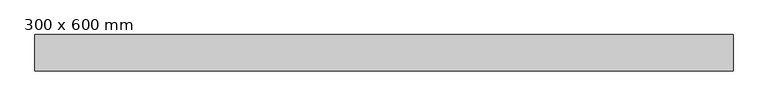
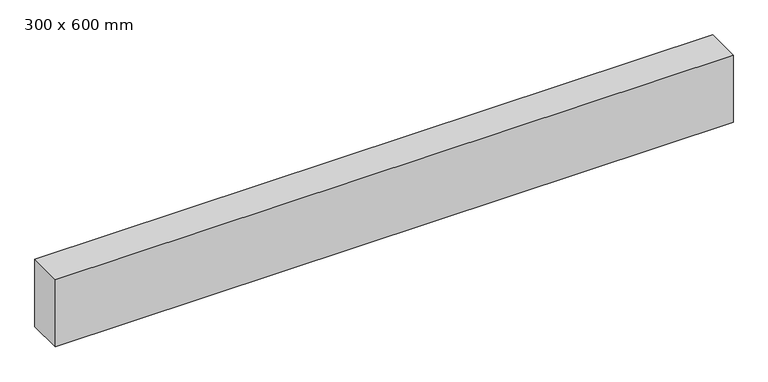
"""IFC4 building model written with IfcOpenShell, lengths in millimetres: beam geometry, Poutre rectangulaire - Béton : 300 x 600 mm."""

import ifcopenshell
import ifcopenshell.guid

model = None  # the IFC model being written
_history = None  # IfcOwnerHistory: only IFC2X3 demands one
_inside = {}  # id of a spatial element -> (the spatial element, [elements in it])
_under = {}  # id of a project, library or spatial element -> (it, [spatial elements below it])
_declared = {}  # id of a project -> (the project, [libraries it declares])
_typed = {}  # id of a type object -> (the type object, [elements of that type])
_made_of = {}  # id of a material, layer set ... -> (it, [elements and type objects made of it])


def new_model(schema):
    """Start an empty IFC model of exactly this schema.

    Asked for "IFC4X3", IfcOpenShell would pick the latest addendum, in which some entities
    have other attributes; the version numbers below select the first issue.
    IFC2X3 requires an IfcOwnerHistory on every rooted entity: one is made here for all.
    """
    global model, _history
    if schema == "IFC4X3":
        model = ifcopenshell.file(schema_version=(4, 3, 0, 0))
    else:
        model = ifcopenshell.file(schema=schema)
    _inside.clear()
    _under.clear()
    _declared.clear()
    _typed.clear()
    _made_of.clear()
    _history = None
    if model.schema == "IFC2X3":
        org = make("IfcOrganization", Name="unknown")
        user = make(
            "IfcPersonAndOrganization",
            ThePerson=make("IfcPerson", FamilyName="unknown"),
            TheOrganization=org,
        )
        app = make(
            "IfcApplication",
            ApplicationDeveloper=org,
            Version="unknown",
            ApplicationFullName="unknown",
            ApplicationIdentifier="unknown",
        )
        _history = make(
            "IfcOwnerHistory",
            OwningUser=user,
            OwningApplication=app,
            ChangeAction="ADDED",
            CreationDate=0,
        )
    return model


def make(cls, **values):
    """One entity of the class cls with the attributes given. An attribute that is None is left unset."""
    return model.create_entity(
        cls, **{name: value for name, value in values.items() if value is not None}
    )


def rooted(cls, **values):
    """An entity with a GlobalId (a new one), such as an element, a storey or a relation."""
    return make(cls, GlobalId=ifcopenshell.guid.new(), OwnerHistory=_history, **values)


def si_unit(unit_type, name, prefix=None):
    """IfcSIUnit, for example si_unit("LENGTHUNIT", "METRE", prefix="MILLI")."""
    return make("IfcSIUnit", UnitType=unit_type, Prefix=prefix, Name=name)


def assignment(units):
    """IfcUnitAssignment: the units of a project."""
    return None if units is None else make("IfcUnitAssignment", Units=units)


def point(xyz):
    """IfcCartesianPoint."""
    return None if xyz is None else make("IfcCartesianPoint", Coordinates=xyz)


def direction(xyz):
    """IfcDirection."""
    return None if xyz is None else make("IfcDirection", DirectionRatios=xyz)


def frame(location, z_axis=None, x_axis=None):
    """IfcAxis2Placement3D, a coordinate frame: its origin and axes. An axis left out is left unset."""
    return make(
        "IfcAxis2Placement3D",
        Location=point(location),
        Axis=direction(z_axis),
        RefDirection=direction(x_axis),
    )


def origin():
    """The frame at (0, 0, 0) with its axes left unset."""
    return frame((0.0, 0.0, 0.0))


def place(relative_to, where):
    """IfcLocalPlacement: puts the frame where relative to a parent placement (None: the world)."""
    return make(
        "IfcLocalPlacement", PlacementRelTo=relative_to, RelativePlacement=where
    )


def context(
    kind, dimensions, precision=None, world=None, true_north=None, identifier=None
):
    """IfcGeometricRepresentationContext, for example the 3D "Model" context."""
    return make(
        "IfcGeometricRepresentationContext",
        ContextIdentifier=identifier,
        ContextType=kind,
        CoordinateSpaceDimension=dimensions,
        Precision=precision,
        WorldCoordinateSystem=world,
        TrueNorth=true_north,
    )


def project(units=None, contexts=None):
    """IfcProject with its units and contexts."""
    return rooted(
        "IfcProject",
        Name="project",
        RepresentationContexts=contexts,
        UnitsInContext=assignment(units),
    )


def spatial(cls, under=None, at=None, **own):
    """A site, building, storey or space (cls), placed at a placement, below another one or the project."""
    s = rooted(cls, ObjectPlacement=at, **own)
    if under is not None:
        _under.setdefault(under.id(), (under, []))[1].append(s)
    return s


def polyline(points):
    """IfcPolyline through the points."""
    return make("IfcPolyline", Points=[point(p) for p in points])


def outline(outer, holes=None, kind="AREA"):
    """IfcArbitraryClosedProfileDef: a profile drawn as a closed curve; with holes, ...WithVoids."""
    if holes is None:
        return make("IfcArbitraryClosedProfileDef", ProfileType=kind, OuterCurve=outer)
    return make(
        "IfcArbitraryProfileDefWithVoids",
        ProfileType=kind,
        OuterCurve=outer,
        InnerCurves=holes,
    )


def extrude(swept, where, along, depth):
    """IfcExtrudedAreaSolid: the profile swept, set in the frame where, extruded along a direction by depth."""
    return make(
        "IfcExtrudedAreaSolid",
        SweptArea=swept,
        Position=where,
        ExtrudedDirection=direction(along),
        Depth=depth,
    )


def shape(context_of_items, identifier, shape_type, items):
    """IfcShapeRepresentation: the items that make up one representation, for example the "Body"."""
    return make(
        "IfcShapeRepresentation",
        ContextOfItems=context_of_items,
        RepresentationIdentifier=identifier,
        RepresentationType=shape_type,
        Items=items,
    )


def source(mapping_origin, context_of_items, identifier, shape_type, items):
    """IfcRepresentationMap: a shape defined once, which mapped items show again and again."""
    return make(
        "IfcRepresentationMap",
        MappingOrigin=mapping_origin,
        MappedRepresentation=shape(context_of_items, identifier, shape_type, items),
    )


def transform(
    local_origin,
    x_axis=None,
    y_axis=None,
    z_axis=None,
    scale=None,
    scale2=None,
    scale3=None,
    uniform=True,
):
    """IfcCartesianTransformationOperator3D, or its non-uniform kind. x_axis, y_axis, z_axis: its Axis1, 2, 3."""
    if uniform:
        return make(
            "IfcCartesianTransformationOperator3D",
            Axis1=direction(x_axis),
            Axis2=direction(y_axis),
            LocalOrigin=point(local_origin),
            Scale=scale,
            Axis3=direction(z_axis),
        )
    return make(
        "IfcCartesianTransformationOperator3DnonUniform",
        Axis1=direction(x_axis),
        Axis2=direction(y_axis),
        LocalOrigin=point(local_origin),
        Scale=scale,
        Axis3=direction(z_axis),
        Scale2=scale2,
        Scale3=scale3,
    )


def mapped(mapping_source, mapping_target):
    """IfcMappedItem: shows the shape of a source again, moved by a transform."""
    return make(
        "IfcMappedItem", MappingSource=mapping_source, MappingTarget=mapping_target
    )


def made_of(thing, what):
    """Note that an element or type object is made of a material, layer set ...; save() writes the relation."""
    if what is not None:
        _made_of.setdefault(what.id(), (what, []))[1].append(thing)
    return thing


def element(
    cls,
    number,
    at=None,
    inside=None,
    cuts=None,
    type_object=None,
    material=None,
    context=None,
    identifier="Body",
    shape_type=None,
    held_by="IfcProductDefinitionShape",
    body=None,
    shapes=None,
    **own,
):
    """One element of the class cls, such as IfcWall. Its Tag is "e" and its number.

    at: its placement. inside: the storey or other place that contains it. cuts: it is an
    opening in that element (IfcRelVoidsElement). A single representation is given by context,
    identifier, shape_type and body (its items); several are given by shapes. held_by: the class
    of the entity that holds the representations. save() writes the other relations.
    """
    e = rooted(cls, Tag="e%d" % number, ObjectPlacement=at, **own)
    if body is not None:
        shapes = [shape(context, identifier, shape_type, body)]
    if shapes is not None:
        e.Representation = make(held_by, Representations=shapes)
    if inside is not None:
        _inside.setdefault(inside.id(), (inside, []))[1].append(e)
    if cuts is not None:
        rooted(
            "IfcRelVoidsElement", RelatingBuildingElement=cuts, RelatedOpeningElement=e
        )
    if type_object is not None:
        _typed.setdefault(type_object.id(), (type_object, []))[1].append(e)
    return made_of(e, material)


def aggregate(whole, parts):
    """IfcRelAggregates: a whole, such as a stair, and the parts it consists of."""
    return rooted("IfcRelAggregates", RelatingObject=whole, RelatedObjects=parts)


def save(model, path):
    """Write the relations noted so far, then the file.

    IfcRelAggregates (storeys below a building ...), IfcRelContainedInSpatialStructure (elements
    in a storey), IfcRelDefinesByType, IfcRelAssociatesMaterial and IfcRelDeclares: one each for
    every whole, place, type object, material and project.
    """
    for whole, parts in _under.values():
        aggregate(whole, parts)
    for where, things in _inside.values():
        rooted(
            "IfcRelContainedInSpatialStructure",
            RelatedElements=things,
            RelatingStructure=where,
        )
    for kind, things in _typed.values():
        rooted("IfcRelDefinesByType", RelatedObjects=things, RelatingType=kind)
    for what, things in _made_of.values():
        rooted("IfcRelAssociatesMaterial", RelatedObjects=things, RelatingMaterial=what)
    for by, libraries in _declared.values():
        rooted("IfcRelDeclares", RelatingContext=by, RelatedDefinitions=libraries)
    model.write(path)


def beam_300_x_600_mm_29036b1c(model_context):
    return source(origin(), model_context, "Body", "SweptSolid", [
        extrude(outline(polyline([(2862.7, 150.0), (2862.7, -150.0), (-2862.7, -150.0), (-2862.7, 150.0), (2862.7, 150.0)])), frame((0.0, 0.0, -300.0), z_axis=(0.0, 0.0, 1.0), x_axis=(1.0, 0.0, 0.0)), (0.0, 0.0, 1.0), 600.0),
    ])


if __name__ == "__main__":
    model = new_model("IFC4")
    model_context = context("Model", 3, world=origin())
    ifc_project = project(units=[si_unit("LENGTHUNIT", "METRE", prefix="MILLI")], contexts=[model_context])
    site = spatial("IfcSite", under=ifc_project)
    building = spatial("IfcBuilding", under=site)
    placement = place(None, origin())
    beam_300_x_600_mm_shape = beam_300_x_600_mm_29036b1c(model_context)
    element("IfcBeam", 1, ObjectType="Poutre rectangulaire - Béton : 300 x 600 mm", at=placement, inside=building, context=model_context, shape_type="MappedRepresentation", body=[
        mapped(beam_300_x_600_mm_shape, transform((0.0, 0.0, 0.0), x_axis=(1.0, 0.0, 0.0), y_axis=(0.0, 1.0, 0.0), z_axis=(0.0, 0.0, 1.0))),
    ])
    save(model, "model.ifc")
